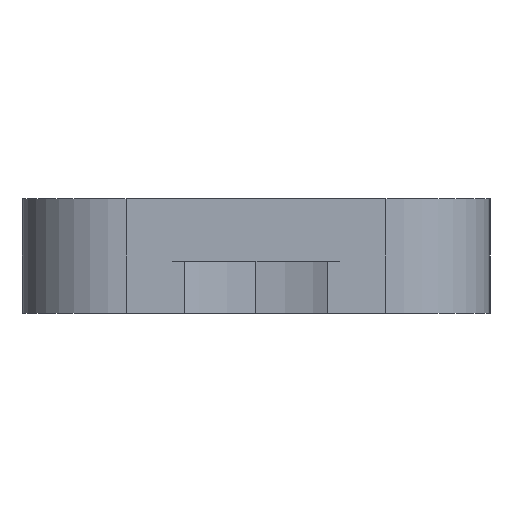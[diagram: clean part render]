
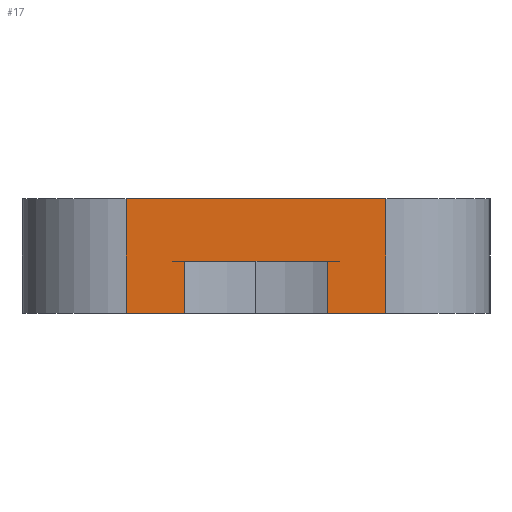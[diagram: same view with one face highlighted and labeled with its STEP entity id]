
A CAD part, left-side view. The second image highlights one B-rep face of the part: STEP entity #17.
In plain terms, the highlighted planar face has unit normal (-1, 0, 0).
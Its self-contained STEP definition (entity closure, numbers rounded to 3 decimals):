
#17 = ADVANCED_FACE('',(#18),#32,.T.);
#18 = FACE_BOUND('',#19,.T.);
#19 = EDGE_LOOP('',(#20,#55,#83,#111,#139,#162,#188,#214));
#20 = ORIENTED_EDGE('',*,*,#21,.F.);
#21 = EDGE_CURVE('',#22,#24,#26,.T.);
#22 = VERTEX_POINT('',#23);
#23 = CARTESIAN_POINT('',(-17.,-34.5,-21.33));
#24 = VERTEX_POINT('',#25);
#25 = CARTESIAN_POINT('',(-17.,-33.375,-21.33));
#26 = SURFACE_CURVE('',#27,(#31,#43),.PCURVE_S1.);
#27 = LINE('',#28,#29);
#28 = CARTESIAN_POINT('',(-17.,-32.,-21.33));
#29 = VECTOR('',#30,1.);
#30 = DIRECTION('',(0.,1.,0.));
#31 = PCURVE('',#32,#37);
#32 = PLANE('',#33);
#33 = AXIS2_PLACEMENT_3D('',#34,#35,#36);
#34 = CARTESIAN_POINT('',(-17.,-34.5,-21.33));
#35 = DIRECTION('',(-1.,0.,0.));
#36 = DIRECTION('',(0.,1.,0.));
#37 = DEFINITIONAL_REPRESENTATION('',(#38),#42);
#38 = LINE('',#39,#40);
#39 = CARTESIAN_POINT('',(2.5,0.));
#40 = VECTOR('',#41,1.);
#41 = DIRECTION('',(1.,0.));
#42 = ( GEOMETRIC_REPRESENTATION_CONTEXT(2) 
PARAMETRIC_REPRESENTATION_CONTEXT() REPRESENTATION_CONTEXT('2D SPACE',''
  ) );
#43 = PCURVE('',#44,#49);
#44 = PLANE('',#45);
#45 = AXIS2_PLACEMENT_3D('',#46,#47,#48);
#46 = CARTESIAN_POINT('',(0.,-32.,-21.33));
#47 = DIRECTION('',(0.,0.,1.));
#48 = DIRECTION('',(1.,0.,0.));
#49 = DEFINITIONAL_REPRESENTATION('',(#50),#54);
#50 = LINE('',#51,#52);
#51 = CARTESIAN_POINT('',(-17.,0.));
#52 = VECTOR('',#53,1.);
#53 = DIRECTION('',(0.,1.));
#54 = ( GEOMETRIC_REPRESENTATION_CONTEXT(2) 
PARAMETRIC_REPRESENTATION_CONTEXT() REPRESENTATION_CONTEXT('2D SPACE',''
  ) );
#55 = ORIENTED_EDGE('',*,*,#56,.T.);
#56 = EDGE_CURVE('',#22,#57,#59,.T.);
#57 = VERTEX_POINT('',#58);
#58 = CARTESIAN_POINT('',(-17.,-34.5,-19.13));
#59 = SURFACE_CURVE('',#60,(#64,#71),.PCURVE_S1.);
#60 = LINE('',#61,#62);
#61 = CARTESIAN_POINT('',(-17.,-34.5,-21.33));
#62 = VECTOR('',#63,1.);
#63 = DIRECTION('',(0.,0.,1.));
#64 = PCURVE('',#32,#65);
#65 = DEFINITIONAL_REPRESENTATION('',(#66),#70);
#66 = LINE('',#67,#68);
#67 = CARTESIAN_POINT('',(0.,0.));
#68 = VECTOR('',#69,1.);
#69 = DIRECTION('',(0.,-1.));
#70 = ( GEOMETRIC_REPRESENTATION_CONTEXT(2) 
PARAMETRIC_REPRESENTATION_CONTEXT() REPRESENTATION_CONTEXT('2D SPACE',''
  ) );
#71 = PCURVE('',#72,#77);
#72 = CYLINDRICAL_SURFACE('',#73,2.);
#73 = AXIS2_PLACEMENT_3D('',#74,#75,#76);
#74 = CARTESIAN_POINT('',(-15.,-34.5,-21.33));
#75 = DIRECTION('',(0.,0.,-1.));
#76 = DIRECTION('',(-1.,0.,0.));
#77 = DEFINITIONAL_REPRESENTATION('',(#78),#82);
#78 = LINE('',#79,#80);
#79 = CARTESIAN_POINT('',(6.283,0.));
#80 = VECTOR('',#81,1.);
#81 = DIRECTION('',(0.,-1.));
#82 = ( GEOMETRIC_REPRESENTATION_CONTEXT(2) 
PARAMETRIC_REPRESENTATION_CONTEXT() REPRESENTATION_CONTEXT('2D SPACE',''
  ) );
#83 = ORIENTED_EDGE('',*,*,#84,.T.);
#84 = EDGE_CURVE('',#57,#85,#87,.T.);
#85 = VERTEX_POINT('',#86);
#86 = CARTESIAN_POINT('',(-17.,-29.5,-19.13));
#87 = SURFACE_CURVE('',#88,(#92,#99),.PCURVE_S1.);
#88 = LINE('',#89,#90);
#89 = CARTESIAN_POINT('',(-17.,-32.,-19.13));
#90 = VECTOR('',#91,1.);
#91 = DIRECTION('',(0.,1.,0.));
#92 = PCURVE('',#32,#93);
#93 = DEFINITIONAL_REPRESENTATION('',(#94),#98);
#94 = LINE('',#95,#96);
#95 = CARTESIAN_POINT('',(2.5,-2.2));
#96 = VECTOR('',#97,1.);
#97 = DIRECTION('',(1.,0.));
#98 = ( GEOMETRIC_REPRESENTATION_CONTEXT(2) 
PARAMETRIC_REPRESENTATION_CONTEXT() REPRESENTATION_CONTEXT('2D SPACE',''
  ) );
#99 = PCURVE('',#100,#105);
#100 = PLANE('',#101);
#101 = AXIS2_PLACEMENT_3D('',#102,#103,#104);
#102 = CARTESIAN_POINT('',(0.,-32.,-19.13));
#103 = DIRECTION('',(0.,0.,1.));
#104 = DIRECTION('',(1.,0.,0.));
#105 = DEFINITIONAL_REPRESENTATION('',(#106),#110);
#106 = LINE('',#107,#108);
#107 = CARTESIAN_POINT('',(-17.,0.));
#108 = VECTOR('',#109,1.);
#109 = DIRECTION('',(0.,1.));
#110 = ( GEOMETRIC_REPRESENTATION_CONTEXT(2) 
PARAMETRIC_REPRESENTATION_CONTEXT() REPRESENTATION_CONTEXT('2D SPACE',''
  ) );
#111 = ORIENTED_EDGE('',*,*,#112,.F.);
#112 = EDGE_CURVE('',#113,#85,#115,.T.);
#113 = VERTEX_POINT('',#114);
#114 = CARTESIAN_POINT('',(-17.,-29.5,-21.33));
#115 = SURFACE_CURVE('',#116,(#120,#127),.PCURVE_S1.);
#116 = LINE('',#117,#118);
#117 = CARTESIAN_POINT('',(-17.,-29.5,-21.33));
#118 = VECTOR('',#119,1.);
#119 = DIRECTION('',(0.,0.,1.));
#120 = PCURVE('',#32,#121);
#121 = DEFINITIONAL_REPRESENTATION('',(#122),#126);
#122 = LINE('',#123,#124);
#123 = CARTESIAN_POINT('',(5.,0.));
#124 = VECTOR('',#125,1.);
#125 = DIRECTION('',(0.,-1.));
#126 = ( GEOMETRIC_REPRESENTATION_CONTEXT(2) 
PARAMETRIC_REPRESENTATION_CONTEXT() REPRESENTATION_CONTEXT('2D SPACE',''
  ) );
#127 = PCURVE('',#128,#133);
#128 = CYLINDRICAL_SURFACE('',#129,2.);
#129 = AXIS2_PLACEMENT_3D('',#130,#131,#132);
#130 = CARTESIAN_POINT('',(-15.,-29.5,-21.33));
#131 = DIRECTION('',(0.,0.,-1.));
#132 = DIRECTION('',(-1.,0.,0.));
#133 = DEFINITIONAL_REPRESENTATION('',(#134),#138);
#134 = LINE('',#135,#136);
#135 = CARTESIAN_POINT('',(0.,0.));
#136 = VECTOR('',#137,1.);
#137 = DIRECTION('',(0.,-1.));
#138 = ( GEOMETRIC_REPRESENTATION_CONTEXT(2) 
PARAMETRIC_REPRESENTATION_CONTEXT() REPRESENTATION_CONTEXT('2D SPACE',''
  ) );
#139 = ORIENTED_EDGE('',*,*,#140,.F.);
#140 = EDGE_CURVE('',#141,#113,#143,.T.);
#141 = VERTEX_POINT('',#142);
#142 = CARTESIAN_POINT('',(-17.,-30.625,-21.33));
#143 = SURFACE_CURVE('',#144,(#148,#155),.PCURVE_S1.);
#144 = LINE('',#145,#146);
#145 = CARTESIAN_POINT('',(-17.,-32.,-21.33));
#146 = VECTOR('',#147,1.);
#147 = DIRECTION('',(0.,1.,0.));
#148 = PCURVE('',#32,#149);
#149 = DEFINITIONAL_REPRESENTATION('',(#150),#154);
#150 = LINE('',#151,#152);
#151 = CARTESIAN_POINT('',(2.5,0.));
#152 = VECTOR('',#153,1.);
#153 = DIRECTION('',(1.,0.));
#154 = ( GEOMETRIC_REPRESENTATION_CONTEXT(2) 
PARAMETRIC_REPRESENTATION_CONTEXT() REPRESENTATION_CONTEXT('2D SPACE',''
  ) );
#155 = PCURVE('',#44,#156);
#156 = DEFINITIONAL_REPRESENTATION('',(#157),#161);
#157 = LINE('',#158,#159);
#158 = CARTESIAN_POINT('',(-17.,0.));
#159 = VECTOR('',#160,1.);
#160 = DIRECTION('',(0.,1.));
#161 = ( GEOMETRIC_REPRESENTATION_CONTEXT(2) 
PARAMETRIC_REPRESENTATION_CONTEXT() REPRESENTATION_CONTEXT('2D SPACE',''
  ) );
#162 = ORIENTED_EDGE('',*,*,#163,.T.);
#163 = EDGE_CURVE('',#141,#164,#166,.T.);
#164 = VERTEX_POINT('',#165);
#165 = CARTESIAN_POINT('',(-17.,-30.625,-20.33));
#166 = SURFACE_CURVE('',#167,(#171,#177),.PCURVE_S1.);
#167 = LINE('',#168,#169);
#168 = CARTESIAN_POINT('',(-17.,-30.625,-21.34));
#169 = VECTOR('',#170,1.);
#170 = DIRECTION('',(0.,0.,1.));
#171 = PCURVE('',#32,#172);
#172 = DEFINITIONAL_REPRESENTATION('',(#173),#176);
#173 = B_SPLINE_CURVE_WITH_KNOTS('',1,(#174,#175),.UNSPECIFIED.,.F.,.F.,
  (2,2),(0.,1.01),.PIECEWISE_BEZIER_KNOTS.);
#174 = CARTESIAN_POINT('',(3.875,0.01));
#175 = CARTESIAN_POINT('',(3.875,-1.));
#176 = ( GEOMETRIC_REPRESENTATION_CONTEXT(2) 
PARAMETRIC_REPRESENTATION_CONTEXT() REPRESENTATION_CONTEXT('2D SPACE',''
  ) );
#177 = PCURVE('',#178,#183);
#178 = CYLINDRICAL_SURFACE('',#179,3.3);
#179 = AXIS2_PLACEMENT_3D('',#180,#181,#182);
#180 = CARTESIAN_POINT('',(-14.,-32.,-21.34));
#181 = DIRECTION('',(0.,0.,1.));
#182 = DIRECTION('',(1.,0.,-0.));
#183 = DEFINITIONAL_REPRESENTATION('',(#184),#187);
#184 = B_SPLINE_CURVE_WITH_KNOTS('',1,(#185,#186),.UNSPECIFIED.,.F.,.F.,
  (2,2),(0.,1.01),.PIECEWISE_BEZIER_KNOTS.);
#185 = CARTESIAN_POINT('',(2.712,0.));
#186 = CARTESIAN_POINT('',(2.712,1.01));
#187 = ( GEOMETRIC_REPRESENTATION_CONTEXT(2) 
PARAMETRIC_REPRESENTATION_CONTEXT() REPRESENTATION_CONTEXT('2D SPACE',''
  ) );
#188 = ORIENTED_EDGE('',*,*,#189,.F.);
#189 = EDGE_CURVE('',#190,#164,#192,.T.);
#190 = VERTEX_POINT('',#191);
#191 = CARTESIAN_POINT('',(-17.,-33.375,-20.33));
#192 = SURFACE_CURVE('',#193,(#197,#203),.PCURVE_S1.);
#193 = LINE('',#194,#195);
#194 = CARTESIAN_POINT('',(-17.,-33.25,-20.33));
#195 = VECTOR('',#196,1.);
#196 = DIRECTION('',(0.,1.,-0.));
#197 = PCURVE('',#32,#198);
#198 = DEFINITIONAL_REPRESENTATION('',(#199),#202);
#199 = B_SPLINE_CURVE_WITH_KNOTS('',1,(#200,#201),.UNSPECIFIED.,.F.,.F.,
  (2,2),(-1.25,3.75),.PIECEWISE_BEZIER_KNOTS.);
#200 = CARTESIAN_POINT('',(0.,-1.));
#201 = CARTESIAN_POINT('',(5.,-1.));
#202 = ( GEOMETRIC_REPRESENTATION_CONTEXT(2) 
PARAMETRIC_REPRESENTATION_CONTEXT() REPRESENTATION_CONTEXT('2D SPACE',''
  ) );
#203 = PCURVE('',#204,#209);
#204 = PLANE('',#205);
#205 = AXIS2_PLACEMENT_3D('',#206,#207,#208);
#206 = CARTESIAN_POINT('',(-14.,-32.,-20.33));
#207 = DIRECTION('',(0.,0.,1.));
#208 = DIRECTION('',(1.,0.,-0.));
#209 = DEFINITIONAL_REPRESENTATION('',(#210),#213);
#210 = B_SPLINE_CURVE_WITH_KNOTS('',1,(#211,#212),.UNSPECIFIED.,.F.,.F.,
  (2,2),(-1.25,3.75),.PIECEWISE_BEZIER_KNOTS.);
#211 = CARTESIAN_POINT('',(-3.,-2.5));
#212 = CARTESIAN_POINT('',(-3.,2.5));
#213 = ( GEOMETRIC_REPRESENTATION_CONTEXT(2) 
PARAMETRIC_REPRESENTATION_CONTEXT() REPRESENTATION_CONTEXT('2D SPACE',''
  ) );
#214 = ORIENTED_EDGE('',*,*,#215,.F.);
#215 = EDGE_CURVE('',#24,#190,#216,.T.);
#216 = SURFACE_CURVE('',#217,(#221,#227),.PCURVE_S1.);
#217 = LINE('',#218,#219);
#218 = CARTESIAN_POINT('',(-17.,-33.375,-21.34));
#219 = VECTOR('',#220,1.);
#220 = DIRECTION('',(0.,0.,1.));
#221 = PCURVE('',#32,#222);
#222 = DEFINITIONAL_REPRESENTATION('',(#223),#226);
#223 = B_SPLINE_CURVE_WITH_KNOTS('',1,(#224,#225),.UNSPECIFIED.,.F.,.F.,
  (2,2),(0.,1.01),.PIECEWISE_BEZIER_KNOTS.);
#224 = CARTESIAN_POINT('',(1.125,0.01));
#225 = CARTESIAN_POINT('',(1.125,-1.));
#226 = ( GEOMETRIC_REPRESENTATION_CONTEXT(2) 
PARAMETRIC_REPRESENTATION_CONTEXT() REPRESENTATION_CONTEXT('2D SPACE',''
  ) );
#227 = PCURVE('',#228,#233);
#228 = CYLINDRICAL_SURFACE('',#229,3.3);
#229 = AXIS2_PLACEMENT_3D('',#230,#231,#232);
#230 = CARTESIAN_POINT('',(-14.,-32.,-21.34));
#231 = DIRECTION('',(0.,0.,1.));
#232 = DIRECTION('',(1.,0.,-0.));
#233 = DEFINITIONAL_REPRESENTATION('',(#234),#237);
#234 = B_SPLINE_CURVE_WITH_KNOTS('',1,(#235,#236),.UNSPECIFIED.,.F.,.F.,
  (2,2),(0.,1.01),.PIECEWISE_BEZIER_KNOTS.);
#235 = CARTESIAN_POINT('',(3.571,0.));
#236 = CARTESIAN_POINT('',(3.571,1.01));
#237 = ( GEOMETRIC_REPRESENTATION_CONTEXT(2) 
PARAMETRIC_REPRESENTATION_CONTEXT() REPRESENTATION_CONTEXT('2D SPACE',''
  ) );
